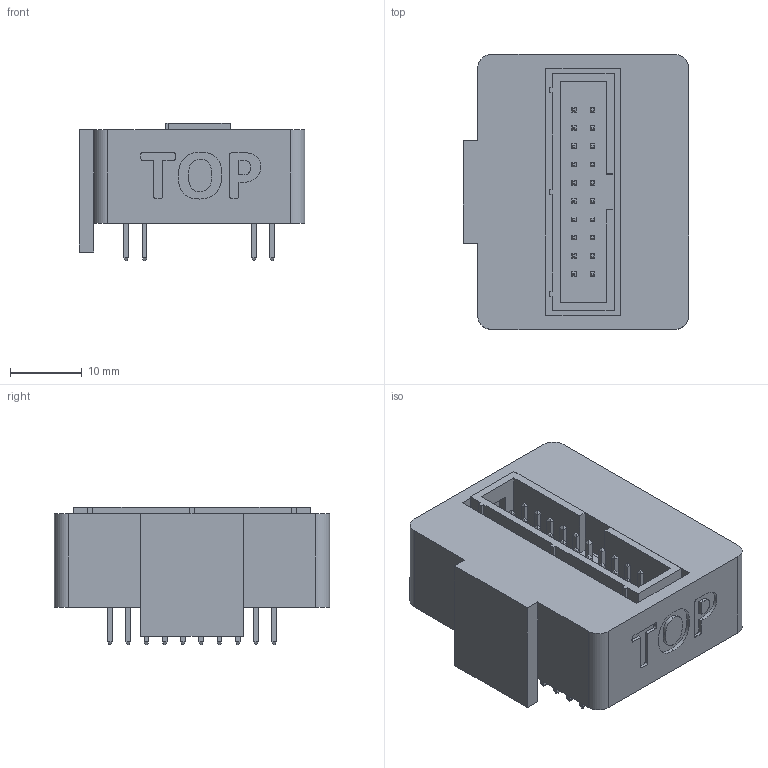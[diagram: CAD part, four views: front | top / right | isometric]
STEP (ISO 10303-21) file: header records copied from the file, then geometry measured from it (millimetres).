
FILE_DESCRIPTION (( 'STEP AP214' ), '1' );
FILE_NAME ('astorino_24VIO_plug.STEP', '2024-05-02T08:45:25', ( '' ), ( '' ), 'SwSTEP 2.0', 'SolidWorks 2021', '' );
FILE_SCHEMA (( 'AUTOMOTIVE_DESIGN' ));
Length unit declared in the file: millimetre
Products named in the file (1): astorino_24VIO_plug
Bounding box: 31.39 x 38.28 x 19.11 mm (x, y, z)
Surface area: 8833.1 mm2 (no closed solid volume)
Topology: 0 solids, 25 shells, 919 faces, 2574 edges, 1725 vertices
Faces by surface type: plane 884, bspline 21, cylinder 14
Entity records: 40074 total; most frequent: CARTESIAN_POINT 6456, DIRECTION 4594, ORIENTED_EDGE 4494, EDGE_CURVE 2574, VECTOR 2268, LINE 2268, VERTEX_POINT 1725, AXIS2_PLACEMENT_3D 1163
